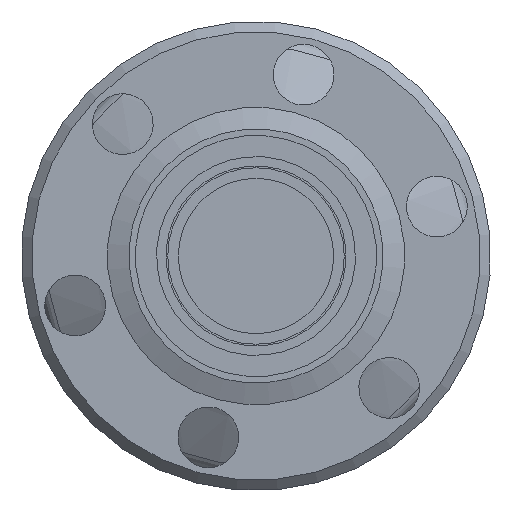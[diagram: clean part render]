
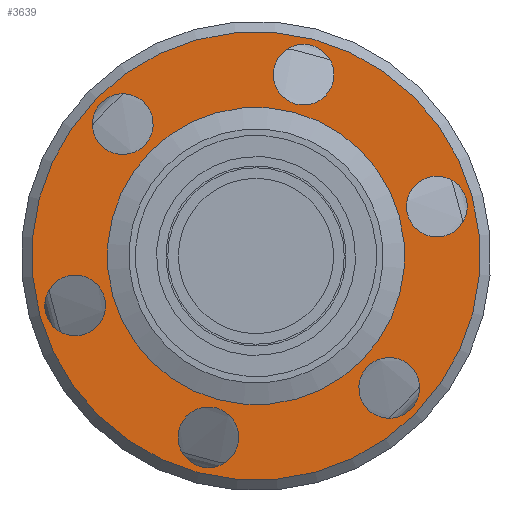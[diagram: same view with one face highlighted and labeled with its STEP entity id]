
A CAD part, front view. The second image highlights one B-rep face of the part: STEP entity #3639.
In plain terms, the highlighted planar face has unit normal (0, -1, 0).
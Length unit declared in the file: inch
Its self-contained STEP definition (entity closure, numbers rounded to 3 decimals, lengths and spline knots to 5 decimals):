
#148 = ORIENTED_EDGE ( 'NONE', *, *, #3246, .F. ) ;
#198 = FACE_BOUND ( 'NONE', #4631, .T. ) ;
#230 = EDGE_CURVE ( 'NONE', #2055, #2055, #754, .T. ) ;
#242 = VERTEX_POINT ( 'NONE', #740 ) ;
#256 = FACE_BOUND ( 'NONE', #3236, .T. ) ;
#299 = AXIS2_PLACEMENT_3D ( 'NONE', #4474, #2657, #5420 ) ;
#382 = CARTESIAN_POINT ( 'NONE',  ( -0.13481, -2.302, -0.5136 ) ) ;
#388 = AXIS2_PLACEMENT_3D ( 'NONE', #829, #3768, #6039 ) ;
#740 = CARTESIAN_POINT ( 'NONE',  ( -0.57332, -2.302, -0.07956 ) ) ;
#754 = CIRCLE ( 'NONE', #1285, 0.086 ) ;
#829 = CARTESIAN_POINT ( 'NONE',  ( 0., -2.302, 0. ) ) ;
#952 = ORIENTED_EDGE ( 'NONE', *, *, #2504, .F. ) ;
#1061 = EDGE_CURVE ( 'NONE', #3055, #3055, #4473, .T. ) ;
#1157 = EDGE_LOOP ( 'NONE', ( #1952 ) ) ;
#1196 = DIRECTION ( 'NONE',  ( -0.711, 0., 0.703 ) ) ;
#1285 = AXIS2_PLACEMENT_3D ( 'NONE', #382, #2278, #5183 ) ;
#1311 = CARTESIAN_POINT ( 'NONE',  ( 0.46781, -2.302, 0.47263 ) ) ;
#1338 = DIRECTION ( 'NONE',  ( 0., 1., 0. ) ) ;
#1404 = AXIS2_PLACEMENT_3D ( 'NONE', #2182, #4227, #3307 ) ;
#1631 = AXIS2_PLACEMENT_3D ( 'NONE', #6074, #3673, #5139 ) ;
#1905 = AXIS2_PLACEMENT_3D ( 'NONE', #1974, #5561, #4916 ) ;
#1922 = CARTESIAN_POINT ( 'NONE',  ( 0.45131, -2.302, -0.44671 ) ) ;
#1952 = ORIENTED_EDGE ( 'NONE', *, *, #3132, .T. ) ;
#1974 = CARTESIAN_POINT ( 'NONE',  ( 0.5122, -2.302, 0.14006 ) ) ;
#1985 = CIRCLE ( 'NONE', #5847, 0.086 ) ;
#2031 = FACE_BOUND ( 'NONE', #1157, .T. ) ;
#2055 = VERTEX_POINT ( 'NONE', #3504 ) ;
#2092 = FACE_BOUND ( 'NONE', #5784, .T. ) ;
#2115 = CARTESIAN_POINT ( 'NONE',  ( 0.31627, -2.302, -0.31305 ) ) ;
#2182 = CARTESIAN_POINT ( 'NONE',  ( -0.5122, -2.302, -0.14006 ) ) ;
#2278 = DIRECTION ( 'NONE',  ( 0., -1., 0. ) ) ;
#2309 = VERTEX_POINT ( 'NONE', #3301 ) ;
#2381 = VERTEX_POINT ( 'NONE', #4726 ) ;
#2504 = EDGE_CURVE ( 'NONE', #242, #242, #5653, .T. ) ;
#2657 = DIRECTION ( 'NONE',  ( 0., 1., 0. ) ) ;
#2870 = VERTEX_POINT ( 'NONE', #4029 ) ;
#2935 = EDGE_CURVE ( 'NONE', #4370, #4370, #4071, .T. ) ;
#3055 = VERTEX_POINT ( 'NONE', #2115 ) ;
#3065 = FACE_BOUND ( 'NONE', #3958, .T. ) ;
#3132 = EDGE_CURVE ( 'NONE', #2381, #2381, #5974, .T. ) ;
#3169 = AXIS2_PLACEMENT_3D ( 'NONE', #1311, #1338, #3249 ) ;
#3236 = EDGE_LOOP ( 'NONE', ( #952 ) ) ;
#3246 = EDGE_CURVE ( 'NONE', #2309, #2309, #5880, .T. ) ;
#3249 = DIRECTION ( 'NONE',  ( 0.711, 0., -0.703 ) ) ;
#3301 = CARTESIAN_POINT ( 'NONE',  ( 0.45107, -2.302, 0.20056 ) ) ;
#3307 = DIRECTION ( 'NONE',  ( -0.711, 0., 0.703 ) ) ;
#3369 = ORIENTED_EDGE ( 'NONE', *, *, #2935, .T. ) ;
#3435 = CARTESIAN_POINT ( 'NONE',  ( 0.07368, -2.302, 0.5741 ) ) ;
#3504 = CARTESIAN_POINT ( 'NONE',  ( -0.19593, -2.302, -0.4531 ) ) ;
#3519 = CARTESIAN_POINT ( 'NONE',  ( 0.13481, -2.302, 0.5136 ) ) ;
#3639 = ADVANCED_FACE ( 'NONE', ( #4531, #198, #2092, #256, #4471, #2031, #4020, #3065 ), #4989, .F. ) ;
#3673 = DIRECTION ( 'NONE',  ( 0., -1., 0. ) ) ;
#3768 = DIRECTION ( 'NONE',  ( 0., -1., 0. ) ) ;
#3885 = EDGE_LOOP ( 'NONE', ( #148 ) ) ;
#3958 = EDGE_LOOP ( 'NONE', ( #5711 ) ) ;
#4020 = FACE_BOUND ( 'NONE', #5219, .T. ) ;
#4029 = CARTESIAN_POINT ( 'NONE',  ( -0.43851, -2.302, 0.43405 ) ) ;
#4071 = CIRCLE ( 'NONE', #388, 0.635 ) ;
#4175 = EDGE_CURVE ( 'NONE', #5811, #5811, #1985, .T. ) ;
#4227 = DIRECTION ( 'NONE',  ( 0., -1., 0. ) ) ;
#4344 = EDGE_LOOP ( 'NONE', ( #3369 ) ) ;
#4370 = VERTEX_POINT ( 'NONE', #1922 ) ;
#4401 = CIRCLE ( 'NONE', #1631, 0.086 ) ;
#4471 = FACE_BOUND ( 'NONE', #3885, .T. ) ;
#4473 = CIRCLE ( 'NONE', #5263, 0.086 ) ;
#4474 = CARTESIAN_POINT ( 'NONE',  ( 0., -2.302, 0. ) ) ;
#4531 = FACE_OUTER_BOUND ( 'NONE', #4344, .T. ) ;
#4560 = DIRECTION ( 'NONE',  ( 0., -1., 0. ) ) ;
#4591 = CARTESIAN_POINT ( 'NONE',  ( 0.37739, -2.302, -0.37355 ) ) ;
#4631 = EDGE_LOOP ( 'NONE', ( #5526 ) ) ;
#4677 = ORIENTED_EDGE ( 'NONE', *, *, #4175, .F. ) ;
#4726 = CARTESIAN_POINT ( 'NONE',  ( 0.29921, -2.302, -0.29616 ) ) ;
#4785 = EDGE_CURVE ( 'NONE', #2870, #2870, #4401, .T. ) ;
#4811 = DIRECTION ( 'NONE',  ( 0., -1., 0. ) ) ;
#4916 = DIRECTION ( 'NONE',  ( -0.711, 0., 0.703 ) ) ;
#4989 = PLANE ( 'NONE',  #3169 ) ;
#5139 = DIRECTION ( 'NONE',  ( -0.711, 0., 0.703 ) ) ;
#5183 = DIRECTION ( 'NONE',  ( -0.711, 0., 0.703 ) ) ;
#5219 = EDGE_LOOP ( 'NONE', ( #4677 ) ) ;
#5263 = AXIS2_PLACEMENT_3D ( 'NONE', #4591, #4560, #1196 ) ;
#5418 = DIRECTION ( 'NONE',  ( -0.711, 0., 0.703 ) ) ;
#5420 = DIRECTION ( 'NONE',  ( 0.711, 0., -0.703 ) ) ;
#5526 = ORIENTED_EDGE ( 'NONE', *, *, #1061, .F. ) ;
#5561 = DIRECTION ( 'NONE',  ( 0., -1., 0. ) ) ;
#5653 = CIRCLE ( 'NONE', #1404, 0.086 ) ;
#5711 = ORIENTED_EDGE ( 'NONE', *, *, #4785, .F. ) ;
#5784 = EDGE_LOOP ( 'NONE', ( #6073 ) ) ;
#5811 = VERTEX_POINT ( 'NONE', #3435 ) ;
#5847 = AXIS2_PLACEMENT_3D ( 'NONE', #3519, #4811, #5418 ) ;
#5880 = CIRCLE ( 'NONE', #1905, 0.086 ) ;
#5974 = CIRCLE ( 'NONE', #299, 0.421 ) ;
#6039 = DIRECTION ( 'NONE',  ( 0.711, 0., -0.703 ) ) ;
#6073 = ORIENTED_EDGE ( 'NONE', *, *, #230, .F. ) ;
#6074 = CARTESIAN_POINT ( 'NONE',  ( -0.37739, -2.302, 0.37355 ) ) ;
